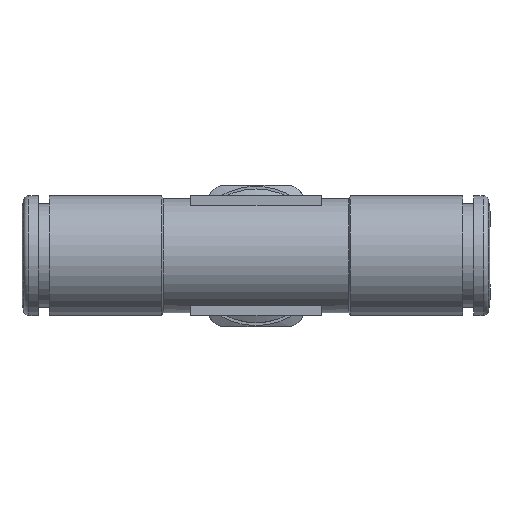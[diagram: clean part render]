
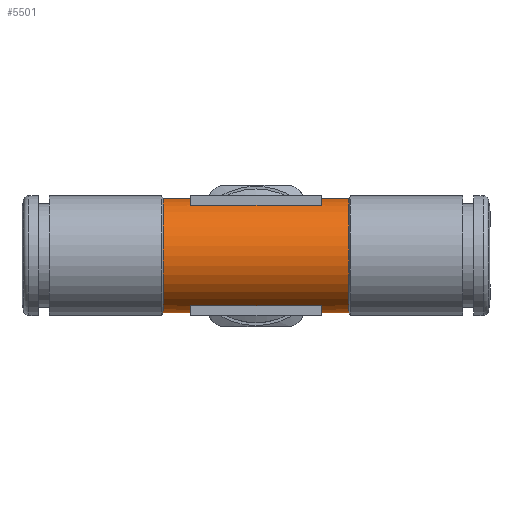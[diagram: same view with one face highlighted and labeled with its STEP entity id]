
A CAD part, top view. The second image highlights one B-rep face of the part: STEP entity #5501.
In plain terms, the highlighted cylindrical face has radius 5.25 mm (diameter 10.5 mm), a full revolution.
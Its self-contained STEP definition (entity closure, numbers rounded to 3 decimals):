
#10=ELLIPSE('',#5321,7.425,5.25);
#11=ELLIPSE('',#5324,7.425,5.25);
#1131=VECTOR('',#3691,1.);
#1132=VECTOR('',#3694,1.);
#1133=VECTOR('',#3697,1.);
#1134=VECTOR('',#3700,1.);
#1135=VECTOR('',#3703,1.);
#1136=VECTOR('',#3706,1.);
#1185=LINE('',#4959,#1131);
#1186=LINE('',#4963,#1132);
#1187=LINE('',#4967,#1133);
#1188=LINE('',#4971,#1134);
#1189=LINE('',#4975,#1135);
#1190=LINE('',#4978,#1136);
#1485=ORIENTED_EDGE('',*,*,#2013,.F.);
#1486=ORIENTED_EDGE('',*,*,#2014,.T.);
#1487=ORIENTED_EDGE('',*,*,#2015,.T.);
#1488=ORIENTED_EDGE('',*,*,#2016,.F.);
#1489=ORIENTED_EDGE('',*,*,#2017,.F.);
#1490=ORIENTED_EDGE('',*,*,#2018,.F.);
#1491=ORIENTED_EDGE('',*,*,#2019,.F.);
#1492=ORIENTED_EDGE('',*,*,#2020,.F.);
#1493=ORIENTED_EDGE('',*,*,#2021,.T.);
#1494=ORIENTED_EDGE('',*,*,#2022,.F.);
#1495=ORIENTED_EDGE('',*,*,#2023,.F.);
#1496=ORIENTED_EDGE('',*,*,#2024,.F.);
#1497=ORIENTED_EDGE('',*,*,#2025,.F.);
#1498=ORIENTED_EDGE('',*,*,#2026,.F.);
#1733=CIRCLE('',#5318,5.25);
#1734=CIRCLE('',#5320,5.25);
#1735=CIRCLE('',#5322,5.25);
#1736=CIRCLE('',#5323,5.25);
#1737=CIRCLE('',#5325,5.25);
#1738=CIRCLE('',#5326,5.25);
#1852=VERTEX_POINT('',#4950);
#1853=VERTEX_POINT('',#4953);
#1854=VERTEX_POINT('',#4955);
#1855=VERTEX_POINT('',#4956);
#1856=VERTEX_POINT('',#4958);
#1857=VERTEX_POINT('',#4960);
#1858=VERTEX_POINT('',#4962);
#1859=VERTEX_POINT('',#4964);
#1860=VERTEX_POINT('',#4966);
#1861=VERTEX_POINT('',#4968);
#1862=VERTEX_POINT('',#4970);
#1863=VERTEX_POINT('',#4972);
#1864=VERTEX_POINT('',#4974);
#1865=VERTEX_POINT('',#4976);
#2013=EDGE_CURVE('',#1852,#1852,#1733,.T.);
#2014=EDGE_CURVE('',#1853,#1853,#1734,.T.);
#2015=EDGE_CURVE('',#1854,#1855,#10,.T.);
#2016=EDGE_CURVE('',#1856,#1855,#1185,.T.);
#2017=EDGE_CURVE('',#1857,#1856,#1735,.T.);
#2018=EDGE_CURVE('',#1858,#1857,#1186,.T.);
#2019=EDGE_CURVE('',#1859,#1858,#1736,.T.);
#2020=EDGE_CURVE('',#1860,#1859,#1187,.T.);
#2021=EDGE_CURVE('',#1860,#1861,#11,.T.);
#2022=EDGE_CURVE('',#1862,#1861,#1188,.T.);
#2023=EDGE_CURVE('',#1863,#1862,#1737,.T.);
#2024=EDGE_CURVE('',#1864,#1863,#1189,.T.);
#2025=EDGE_CURVE('',#1865,#1864,#1738,.T.);
#2026=EDGE_CURVE('',#1854,#1865,#1190,.T.);
#2193=EDGE_LOOP('',(#1485));
#2194=EDGE_LOOP('',(#1486));
#2195=EDGE_LOOP('',(#1487,#1488,#1489,#1490,#1491,#1492,#1493,#1494,#1495,
#1496,#1497,#1498));
#2389=FACE_BOUND('',#2193,.T.);
#2390=FACE_BOUND('',#2194,.T.);
#2391=FACE_BOUND('',#2195,.T.);
#2519=CYLINDRICAL_SURFACE('',#5319,5.25);
#3683=DIRECTION('',(1.,0.,0.));
#3684=DIRECTION('',(0.,5.25,0.));
#3685=DIRECTION('',(-1.,0.,0.));
#3686=DIRECTION('',(0.,1.,0.));
#3687=DIRECTION('',(1.,0.,0.));
#3688=DIRECTION('',(0.,5.25,0.));
#3689=DIRECTION('',(0.707,0.707,0.));
#3690=DIRECTION('',(0.707,-0.707,0.));
#3691=DIRECTION('',(-3.5,0.,0.));
#3692=DIRECTION('',(-1.,0.,0.));
#3693=DIRECTION('',(0.,2.5,-4.617));
#3694=DIRECTION('',(12.,0.,0.));
#3695=DIRECTION('',(1.,0.,0.));
#3696=DIRECTION('',(0.,-2.5,-4.617));
#3697=DIRECTION('',(-3.5,0.,0.));
#3698=DIRECTION('',(-0.707,0.707,0.));
#3699=DIRECTION('',(-0.707,-0.707,0.));
#3700=DIRECTION('',(3.5,0.,0.));
#3701=DIRECTION('',(1.,0.,0.));
#3702=DIRECTION('',(0.,2.5,4.617));
#3703=DIRECTION('',(-12.,0.,0.));
#3704=DIRECTION('',(-1.,0.,0.));
#3705=DIRECTION('',(0.,-2.5,4.617));
#3706=DIRECTION('',(3.5,0.,0.));
#4950=CARTESIAN_POINT('',(33.945,42.731,0.));
#4951=CARTESIAN_POINT('',(33.945,37.481,0.));
#4952=CARTESIAN_POINT('',(33.945,37.481,0.));
#4953=CARTESIAN_POINT('',(16.945,42.731,0.));
#4954=CARTESIAN_POINT('',(16.945,37.481,0.));
#4955=CARTESIAN_POINT('',(27.945,34.981,4.617));
#4956=CARTESIAN_POINT('',(27.945,34.981,-4.617));
#4957=CARTESIAN_POINT('',(25.445,37.481,0.));
#4958=CARTESIAN_POINT('',(31.445,34.981,-4.617));
#4959=CARTESIAN_POINT('',(31.445,34.981,-4.617));
#4960=CARTESIAN_POINT('',(31.445,39.981,-4.617));
#4961=CARTESIAN_POINT('',(31.445,37.481,0.));
#4962=CARTESIAN_POINT('',(19.445,39.981,-4.617));
#4963=CARTESIAN_POINT('',(19.445,39.981,-4.617));
#4964=CARTESIAN_POINT('',(19.445,34.981,-4.617));
#4965=CARTESIAN_POINT('',(19.445,37.481,0.));
#4966=CARTESIAN_POINT('',(22.945,34.981,-4.617));
#4967=CARTESIAN_POINT('',(22.945,34.981,-4.617));
#4968=CARTESIAN_POINT('',(22.945,34.981,4.617));
#4969=CARTESIAN_POINT('',(25.445,37.481,0.));
#4970=CARTESIAN_POINT('',(19.445,34.981,4.617));
#4971=CARTESIAN_POINT('',(19.445,34.981,4.617));
#4972=CARTESIAN_POINT('',(19.445,39.981,4.617));
#4973=CARTESIAN_POINT('',(19.445,37.481,0.));
#4974=CARTESIAN_POINT('',(31.445,39.981,4.617));
#4975=CARTESIAN_POINT('',(31.445,39.981,4.617));
#4976=CARTESIAN_POINT('',(31.445,34.981,4.617));
#4977=CARTESIAN_POINT('',(31.445,37.481,0.));
#4978=CARTESIAN_POINT('',(27.945,34.981,4.617));
#5318=AXIS2_PLACEMENT_3D('',#4951,#3683,#3684);
#5319=AXIS2_PLACEMENT_3D('',#4952,#3685,#3686);
#5320=AXIS2_PLACEMENT_3D('',#4954,#3687,#3688);
#5321=AXIS2_PLACEMENT_3D('',#4957,#3689,#3690);
#5322=AXIS2_PLACEMENT_3D('',#4961,#3692,#3693);
#5323=AXIS2_PLACEMENT_3D('',#4965,#3695,#3696);
#5324=AXIS2_PLACEMENT_3D('',#4969,#3698,#3699);
#5325=AXIS2_PLACEMENT_3D('',#4973,#3701,#3702);
#5326=AXIS2_PLACEMENT_3D('',#4977,#3704,#3705);
#5501=ADVANCED_FACE('',(#2389,#2390,#2391),#2519,.T.);
